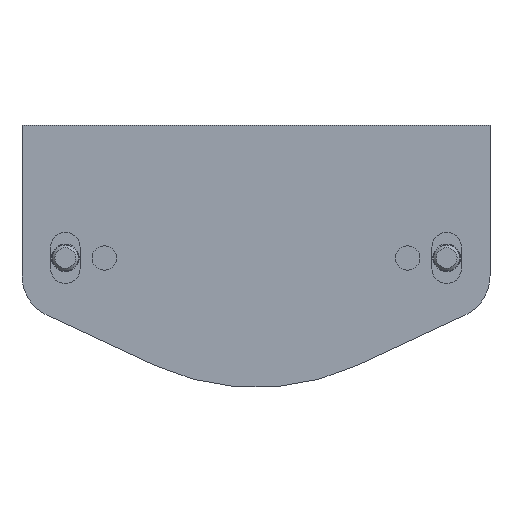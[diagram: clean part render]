
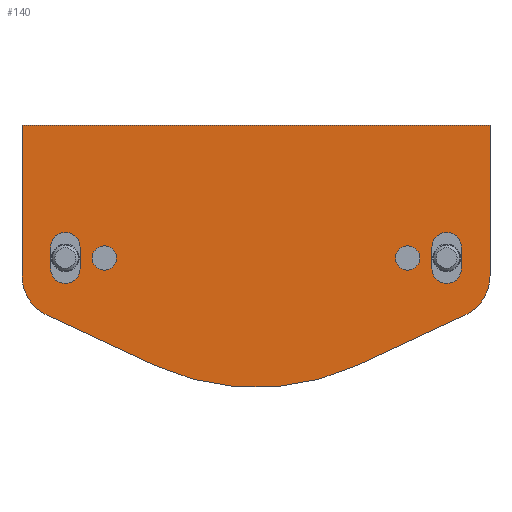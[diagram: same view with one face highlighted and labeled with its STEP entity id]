
A CAD part, front view. The second image highlights one B-rep face of the part: STEP entity #140.
In plain terms, the highlighted planar face has unit normal (0, -1, 0).
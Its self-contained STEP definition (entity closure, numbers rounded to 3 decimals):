
#140 = ADVANCED_FACE( '', ( #308, #309, #310, #311, #312 ), #313, .F. );
#308 = FACE_BOUND( '', #504, .T. );
#309 = FACE_BOUND( '', #505, .T. );
#310 = FACE_BOUND( '', #506, .T. );
#311 = FACE_BOUND( '', #507, .T. );
#312 = FACE_OUTER_BOUND( '', #508, .T. );
#313 = PLANE( '', #509 );
#504 = EDGE_LOOP( '', ( #1018 ) );
#505 = EDGE_LOOP( '', ( #1019 ) );
#506 = EDGE_LOOP( '', ( #1020, #1021, #1022, #1023 ) );
#507 = EDGE_LOOP( '', ( #1024, #1025, #1026, #1027 ) );
#508 = EDGE_LOOP( '', ( #1028, #1029, #1030, #1031, #1032, #1033, #1034, #1035 ) );
#509 = AXIS2_PLACEMENT_3D( '', #1036, #1037, #1038 );
#1018 = ORIENTED_EDGE( '', *, *, #1203, .T. );
#1019 = ORIENTED_EDGE( '', *, *, #1205, .T. );
#1020 = ORIENTED_EDGE( '', *, *, #1293, .T. );
#1021 = ORIENTED_EDGE( '', *, *, #1292, .T. );
#1022 = ORIENTED_EDGE( '', *, *, #1290, .T. );
#1023 = ORIENTED_EDGE( '', *, *, #1288, .T. );
#1024 = ORIENTED_EDGE( '', *, *, #1301, .T. );
#1025 = ORIENTED_EDGE( '', *, *, #1300, .T. );
#1026 = ORIENTED_EDGE( '', *, *, #1298, .T. );
#1027 = ORIENTED_EDGE( '', *, *, #1296, .T. );
#1028 = ORIENTED_EDGE( '', *, *, #1340, .T. );
#1029 = ORIENTED_EDGE( '', *, *, #1318, .F. );
#1030 = ORIENTED_EDGE( '', *, *, #1322, .F. );
#1031 = ORIENTED_EDGE( '', *, *, #1325, .F. );
#1032 = ORIENTED_EDGE( '', *, *, #1328, .F. );
#1033 = ORIENTED_EDGE( '', *, *, #1331, .F. );
#1034 = ORIENTED_EDGE( '', *, *, #1338, .F. );
#1035 = ORIENTED_EDGE( '', *, *, #1341, .F. );
#1036 = CARTESIAN_POINT( '', ( -27., 0., 15.3 ) );
#1037 = DIRECTION( '', ( 0., 1., 0. ) );
#1038 = DIRECTION( '', ( 0., 0., 1. ) );
#1203 = EDGE_CURVE( '', #1415, #1415, #1416, .T. );
#1205 = EDGE_CURVE( '', #1419, #1419, #1420, .T. );
#1288 = EDGE_CURVE( '', #1561, #1563, #1565, .T. );
#1290 = EDGE_CURVE( '', #1566, #1561, #1568, .T. );
#1292 = EDGE_CURVE( '', #1569, #1566, #1571, .T. );
#1293 = EDGE_CURVE( '', #1563, #1569, #1572, .T. );
#1296 = EDGE_CURVE( '', #1573, #1575, #1577, .T. );
#1298 = EDGE_CURVE( '', #1578, #1573, #1580, .T. );
#1300 = EDGE_CURVE( '', #1581, #1578, #1583, .T. );
#1301 = EDGE_CURVE( '', #1575, #1581, #1584, .T. );
#1318 = EDGE_CURVE( '', #1613, #1614, #1615, .T. );
#1322 = EDGE_CURVE( '', #1621, #1613, #1622, .T. );
#1325 = EDGE_CURVE( '', #1626, #1621, #1627, .T. );
#1328 = EDGE_CURVE( '', #1631, #1626, #1632, .T. );
#1331 = EDGE_CURVE( '', #1636, #1631, #1637, .T. );
#1338 = EDGE_CURVE( '', #1646, #1636, #1648, .T. );
#1340 = EDGE_CURVE( '', #1650, #1614, #1651, .T. );
#1341 = EDGE_CURVE( '', #1650, #1646, #1652, .T. );
#1415 = VERTEX_POINT( '', #1744 );
#1416 = CIRCLE( '', #1745, 1.4 );
#1419 = VERTEX_POINT( '', #1748 );
#1420 = CIRCLE( '', #1749, 1.4 );
#1561 = VERTEX_POINT( '', #1934 );
#1563 = VERTEX_POINT( '', #1937 );
#1565 = CIRCLE( '', #1940, 1.7 );
#1566 = VERTEX_POINT( '', #1941 );
#1568 = LINE( '', #1944, #1945 );
#1569 = VERTEX_POINT( '', #1946 );
#1571 = CIRCLE( '', #1949, 1.7 );
#1572 = LINE( '', #1950, #1951 );
#1573 = VERTEX_POINT( '', #1952 );
#1575 = VERTEX_POINT( '', #1955 );
#1577 = CIRCLE( '', #1958, 1.7 );
#1578 = VERTEX_POINT( '', #1959 );
#1580 = LINE( '', #1962, #1963 );
#1581 = VERTEX_POINT( '', #1964 );
#1583 = CIRCLE( '', #1967, 1.7 );
#1584 = LINE( '', #1968, #1969 );
#1613 = VERTEX_POINT( '', #2012 );
#1614 = VERTEX_POINT( '', #2013 );
#1615 = CIRCLE( '', #2014, 5. );
#1621 = VERTEX_POINT( '', #2022 );
#1622 = LINE( '', #2023, #2024 );
#1626 = VERTEX_POINT( '', #2030 );
#1627 = CIRCLE( '', #2031, 28. );
#1631 = VERTEX_POINT( '', #2036 );
#1632 = LINE( '', #2037, #2038 );
#1636 = VERTEX_POINT( '', #2044 );
#1637 = CIRCLE( '', #2045, 5. );
#1646 = VERTEX_POINT( '', #2058 );
#1648 = LINE( '', #2061, #2062 );
#1650 = VERTEX_POINT( '', #2065 );
#1651 = LINE( '', #2066, #2067 );
#1652 = LINE( '', #2068, #2069 );
#1744 = CARTESIAN_POINT( '', ( -16.1, 0., 0. ) );
#1745 = AXIS2_PLACEMENT_3D( '', #2161, #2162, #2163 );
#1748 = CARTESIAN_POINT( '', ( 18.9, 0., 0. ) );
#1749 = AXIS2_PLACEMENT_3D( '', #2167, #2168, #2169 );
#1934 = CARTESIAN_POINT( '', ( -20.3, 0., -1.25 ) );
#1937 = CARTESIAN_POINT( '', ( -23.7, 0., -1.25 ) );
#1940 = AXIS2_PLACEMENT_3D( '', #2324, #2325, #2326 );
#1941 = CARTESIAN_POINT( '', ( -20.3, 0., 1.25 ) );
#1944 = CARTESIAN_POINT( '', ( -20.3, 0., 1.25 ) );
#1945 = VECTOR( '', #2328, 1000. );
#1946 = CARTESIAN_POINT( '', ( -23.7, 0., 1.25 ) );
#1949 = AXIS2_PLACEMENT_3D( '', #2330, #2331, #2332 );
#1950 = CARTESIAN_POINT( '', ( -23.7, 0., -1.25 ) );
#1951 = VECTOR( '', #2333, 1000. );
#1952 = CARTESIAN_POINT( '', ( 23.7, 0., -1.25 ) );
#1955 = CARTESIAN_POINT( '', ( 20.3, 0., -1.25 ) );
#1958 = AXIS2_PLACEMENT_3D( '', #2336, #2337, #2338 );
#1959 = CARTESIAN_POINT( '', ( 23.7, 0., 1.25 ) );
#1962 = CARTESIAN_POINT( '', ( 23.7, 0., 1.25 ) );
#1963 = VECTOR( '', #2340, 1000. );
#1964 = CARTESIAN_POINT( '', ( 20.3, 0., 1.25 ) );
#1967 = AXIS2_PLACEMENT_3D( '', #2342, #2343, #2344 );
#1968 = CARTESIAN_POINT( '', ( 20.3, 0., -1.25 ) );
#1969 = VECTOR( '', #2345, 1000. );
#2012 = CARTESIAN_POINT( '', ( -24.113, 0., -6.605 ) );
#2013 = CARTESIAN_POINT( '', ( -27., 0., -2.073 ) );
#2014 = AXIS2_PLACEMENT_3D( '', #2366, #2367, #2368 );
#2022 = CARTESIAN_POINT( '', ( -11.835, 0., -12.33 ) );
#2023 = CARTESIAN_POINT( '', ( -11.835, 0., -12.33 ) );
#2024 = VECTOR( '', #2374, 1000. );
#2030 = CARTESIAN_POINT( '', ( 11.835, 0., -12.33 ) );
#2031 = AXIS2_PLACEMENT_3D( '', #2377, #2378, #2379 );
#2036 = CARTESIAN_POINT( '', ( 24.113, 0., -6.605 ) );
#2037 = CARTESIAN_POINT( '', ( 24.113, 0., -6.605 ) );
#2038 = VECTOR( '', #2384, 1000. );
#2044 = CARTESIAN_POINT( '', ( 27., 0., -2.073 ) );
#2045 = AXIS2_PLACEMENT_3D( '', #2387, #2388, #2389 );
#2058 = CARTESIAN_POINT( '', ( 27., 0., 15.3 ) );
#2061 = CARTESIAN_POINT( '', ( 27., 0., 15.3 ) );
#2062 = VECTOR( '', #2398, 1000. );
#2065 = CARTESIAN_POINT( '', ( -27., 0., 15.3 ) );
#2066 = CARTESIAN_POINT( '', ( -27., 0., 15.3 ) );
#2067 = VECTOR( '', #2400, 1000. );
#2068 = CARTESIAN_POINT( '', ( -27., 0., 15.3 ) );
#2069 = VECTOR( '', #2401, 1000. );
#2161 = CARTESIAN_POINT( '', ( -17.5, 0., 0. ) );
#2162 = DIRECTION( '', ( 0., 1., 0. ) );
#2163 = DIRECTION( '', ( 1., 0., 0. ) );
#2167 = CARTESIAN_POINT( '', ( 17.5, 0., 0. ) );
#2168 = DIRECTION( '', ( 0., 1., 0. ) );
#2169 = DIRECTION( '', ( 1., 0., 0. ) );
#2324 = CARTESIAN_POINT( '', ( -22., 0., -1.25 ) );
#2325 = DIRECTION( '', ( 0., 1., 0. ) );
#2326 = DIRECTION( '', ( 1., 0., 0. ) );
#2328 = DIRECTION( '', ( 0., 0., -1. ) );
#2330 = CARTESIAN_POINT( '', ( -22., 0., 1.25 ) );
#2331 = DIRECTION( '', ( 0., 1., 0. ) );
#2332 = DIRECTION( '', ( 1., 0., 0. ) );
#2333 = DIRECTION( '', ( 0., 0., 1. ) );
#2336 = CARTESIAN_POINT( '', ( 22., 0., -1.25 ) );
#2337 = DIRECTION( '', ( 0., 1., 0. ) );
#2338 = DIRECTION( '', ( 1., 0., 0. ) );
#2340 = DIRECTION( '', ( 0., 0., -1. ) );
#2342 = CARTESIAN_POINT( '', ( 22., 0., 1.25 ) );
#2343 = DIRECTION( '', ( 0., 1., 0. ) );
#2344 = DIRECTION( '', ( 1., 0., 0. ) );
#2345 = DIRECTION( '', ( 0., 0., 1. ) );
#2366 = CARTESIAN_POINT( '', ( -22., 0., -2.073 ) );
#2367 = DIRECTION( '', ( 0., 1., 0. ) );
#2368 = DIRECTION( '', ( 1., 0., 0. ) );
#2374 = DIRECTION( '', ( -0.906, 0., 0.423 ) );
#2377 = CARTESIAN_POINT( '', ( 0., 0., 13.046 ) );
#2378 = DIRECTION( '', ( 0., 1., 0. ) );
#2379 = DIRECTION( '', ( 1., 0., 0. ) );
#2384 = DIRECTION( '', ( -0.906, 0., -0.423 ) );
#2387 = CARTESIAN_POINT( '', ( 22., 0., -2.073 ) );
#2388 = DIRECTION( '', ( 0., 1., 0. ) );
#2389 = DIRECTION( '', ( 1., 0., 0. ) );
#2398 = DIRECTION( '', ( 0., 0., -1. ) );
#2400 = DIRECTION( '', ( 0., 0., -1. ) );
#2401 = DIRECTION( '', ( 1., 0., 0. ) );
